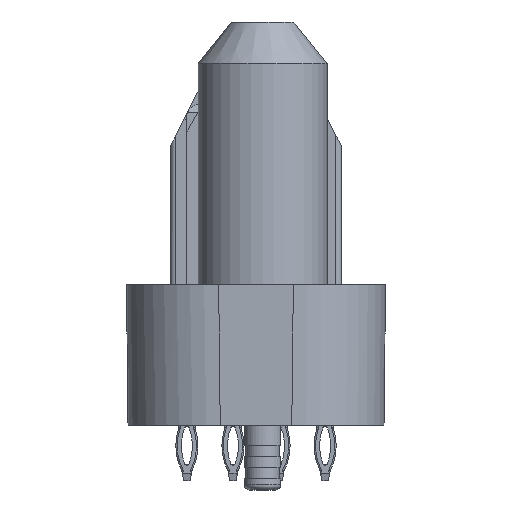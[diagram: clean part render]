
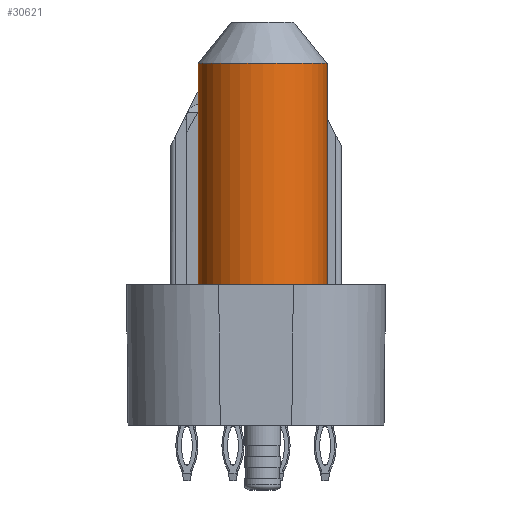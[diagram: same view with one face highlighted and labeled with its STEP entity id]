
A CAD part, left-side view. The second image highlights one B-rep face of the part: STEP entity #30621.
In plain terms, the highlighted cylindrical face has radius 3.5 mm (diameter 7 mm), a partial arc.
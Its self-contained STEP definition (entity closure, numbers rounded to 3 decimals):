
#25326=CYLINDRICAL_SURFACE('',#98594,3.5);
#30621=ADVANCED_FACE('',(#35697),#25326,.T.);
#35697=FACE_OUTER_BOUND('',#39829,.T.);
#39829=EDGE_LOOP('',(#69376,#69377,#69378,#69379));
#44542=LINE('',#142567,#49334);
#44551=LINE('',#142585,#49343);
#49334=VECTOR('',#120732,1.);
#49343=VECTOR('',#120743,1.);
#69376=ORIENTED_EDGE('',*,*,#85478,.F.);
#69377=ORIENTED_EDGE('',*,*,#85516,.T.);
#69378=ORIENTED_EDGE('',*,*,#85469,.F.);
#69379=ORIENTED_EDGE('',*,*,#85532,.T.);
#75494=VERTEX_POINT('',#142568);
#75495=VERTEX_POINT('',#142569);
#75501=VERTEX_POINT('',#142584);
#75502=VERTEX_POINT('',#142586);
#85469=EDGE_CURVE('',#75494,#75495,#44542,.T.);
#85478=EDGE_CURVE('',#75501,#75502,#44551,.T.);
#85516=EDGE_CURVE('',#75501,#75495,#89824,.T.);
#85532=EDGE_CURVE('',#75494,#75502,#89838,.T.);
#89824=CIRCLE('',#98558,3.5);
#89838=CIRCLE('',#98584,3.5);
#98558=AXIS2_PLACEMENT_3D('',#142662,#120816,#120817);
#98584=AXIS2_PLACEMENT_3D('',#142702,#120870,#120871);
#98594=AXIS2_PLACEMENT_3D('',#142718,#120894,#120895);
#120732=DIRECTION('',(0.,0.,1.));
#120743=DIRECTION('',(0.,0.,-1.));
#120816=DIRECTION('',(0.,0.,-1.));
#120817=DIRECTION('',(0.,-1.,0.));
#120870=DIRECTION('',(0.,0.,1.));
#120871=DIRECTION('',(0.,-1.,0.));
#120894=DIRECTION('',(0.,0.,1.));
#120895=DIRECTION('',(1.,0.,0.));
#142567=CARTESIAN_POINT('',(-28.13,3.145,7.63));
#142568=CARTESIAN_POINT('',(-28.13,3.145,7.63));
#142569=CARTESIAN_POINT('',(-28.13,3.145,19.63));
#142584=CARTESIAN_POINT('',(-28.13,-3.855,19.63));
#142585=CARTESIAN_POINT('',(-28.13,-3.855,19.38));
#142586=CARTESIAN_POINT('',(-28.13,-3.855,7.63));
#142662=CARTESIAN_POINT('',(-28.13,-0.355,19.63));
#142702=CARTESIAN_POINT('',(-28.13,-0.355,7.63));
#142718=CARTESIAN_POINT('',(-28.13,-0.355,7.63));
